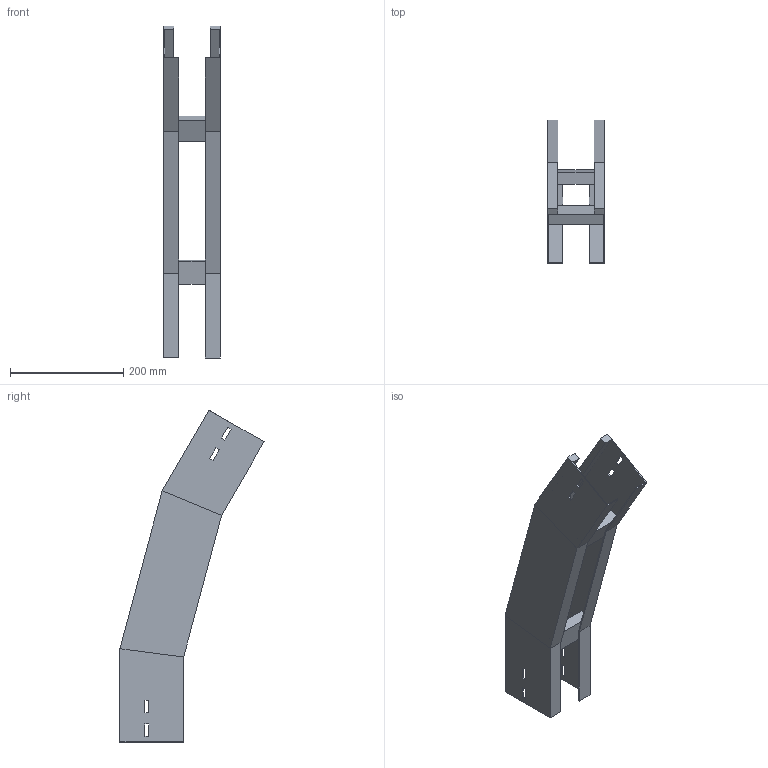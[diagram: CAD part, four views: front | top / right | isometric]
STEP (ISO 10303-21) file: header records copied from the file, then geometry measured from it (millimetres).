
FILE_DESCRIPTION (( 'STEP AP214' ), '1' );
FILE_NAME ('35B5J100.step', '2025-02-21T14:47:12', ( '' ), ( '' ), 'SwSTEP 2.0', 'SolidWorks 2023', '' );
FILE_SCHEMA (( 'AUTOMOTIVE_DESIGN' ));
Length unit declared in the file: millimetre
Products named in the file (3): LONGH.DISCESA_30°_H112.5_R500; 35B5J100; TRAVERSINO_100
Assembly tree (5 placements, depth 2):
  35B5J100
    LONGH.DISCESA_30°_H112.5_R500  x2
    TRAVERSINO_100  x3
Bounding box: 100 x 254.53 x 586.33 mm (x, y, z)
Volume: 787840.7 mm3; surface area: 404946.8 mm2
Topology: 5 solids, 5 shells, 102 faces, 244 edges, 152 vertices
Faces by surface type: plane 102
Entity records: 1480 total; most frequent: CARTESIAN_POINT 244, ORIENTED_EDGE 232, DIRECTION 228, EDGE_CURVE 116, VECTOR 116, LINE 116, VERTEX_POINT 72, EDGE_LOOP 56
